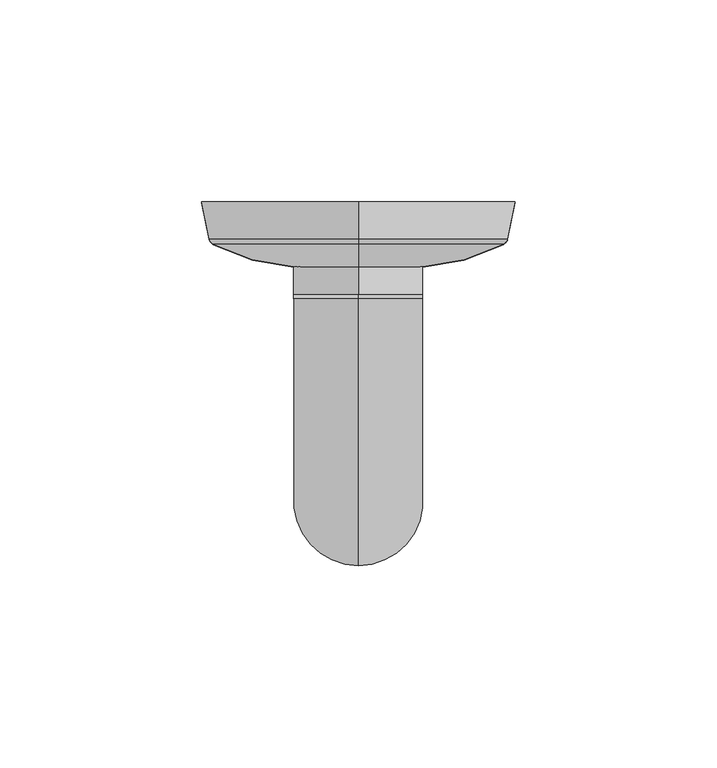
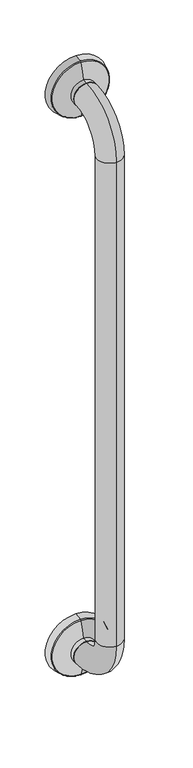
"""IFC4 building model written with IfcOpenShell, lengths in millimetres: proxy geometry, Grab Rail_Metlam_Straight_Vertical : 782long x 90d x 32w (ML332SS)."""

from ifc_helpers import new_model, si_unit, point, frame, origin, place, context, project, spatial, polyline, circle_curve, ellipse_curve, trimmed, source, transform, mapped, element, save
from ifc_brep_helpers import plane_surface, cylinder_surface, revolved_surface, advanced_brep


def specialty_equipment_1fe2ded2(model_context):
    return source(origin(), model_context, "Body", "AdvancedBrep", [
        advanced_brep(
        [(0.0, -90.0, 834.0), (0.0, -24.0, 768.0), (0.0, -24.0, 800.0), (0.0, -58.0, 834.0), (0.0, -58.0, 1484.0), (0.0, -90.0, 1484.0), (0.0, -24.0, 1518.0), (0.0, -24.0, 1550.0), (0.0, -23.0, 768.0), (0.0, -23.0, 800.0), (0.0, -23.0, 1518.0), (0.0, -23.0, 1550.0), (0.0, 0.0, 1534.0), (0.0, 0.0, 1495.0), (0.0, 0.0, 1573.0), (0.0, -9.0646354, 1496.8129271), (0.0, -9.0646354, 1571.1870729), (0.0, -10.4521085, 1570.1384075), (0.0, -10.4521085, 1497.8615925), (0.0, -16.0065539, 1518.0), (0.0, -16.0065539, 1550.0), (0.0, -9.0646354, 746.8129271), (0.0, -9.0646354, 821.1870729), (0.0, 0.0, 823.0), (0.0, 0.0, 745.0), (0.0, -16.0065539, 768.0), (0.0, -16.0065539, 800.0), (0.0, -10.4521085, 820.1384075), (0.0, -10.4521085, 747.8615925), (0.0, 0.0, 784.0)],
        [
            (0, 1, circle_curve(frame((0.0, -24.0, 834.0), z_axis=(1.0, 0.0, 0.0), x_axis=(0.0, 0.0, -1.0)), 66.0)),
            (1, 2, circle_curve(frame((0.0, -24.0, 784.0), z_axis=(0.0, -1.0, 0.0), x_axis=(0.0, 0.0, -1.0)), 16.0)),
            (2, 3, circle_curve(frame((0.0, -24.0, 834.0), z_axis=(-1.0, 0.0, 0.0), x_axis=(0.0, 0.0, -1.0)), 34.0)),
            (3, 0, circle_curve(frame((0.0, -74.0, 834.0), z_axis=(0.0, 0.0, -1.0), x_axis=(0.0, -1.0, 0.0)), 16.0)),
            (0, 3, circle_curve(frame((0.0, -74.0, 834.0), z_axis=(0.0, 0.0, -1.0), x_axis=(0.0, -1.0, 0.0)), 16.0)),
            (2, 1, circle_curve(frame((0.0, -24.0, 784.0), z_axis=(0.0, -1.0, 0.0), x_axis=(0.0, 0.0, -1.0)), 16.0)),
            (3, 4),
            (4, 5, circle_curve(frame((0.0, -74.0, 1484.0), z_axis=(0.0, 0.0, -1.0), x_axis=(0.0, -1.0, 0.0)), 16.0)),
            (5, 0),
            (5, 4, circle_curve(frame((0.0, -74.0, 1484.0), z_axis=(0.0, 0.0, -1.0), x_axis=(0.0, -1.0, 0.0)), 16.0)),
            (4, 6, circle_curve(frame((0.0, -24.0, 1484.0), z_axis=(-1.0, 0.0, 0.0), x_axis=(0.0, -1.0, 0.0)), 34.0)),
            (6, 7, circle_curve(frame((0.0, -24.0, 1534.0), z_axis=(0.0, -1.0, 0.0), x_axis=(0.0, 0.0, 1.0)), 16.0)),
            (7, 5, circle_curve(frame((0.0, -24.0, 1484.0), z_axis=(1.0, 0.0, 0.0), x_axis=(0.0, -1.0, 0.0)), 66.0)),
            (7, 6, circle_curve(frame((0.0, -24.0, 1534.0), z_axis=(0.0, -1.0, 0.0), x_axis=(0.0, 0.0, 1.0)), 16.0)),
            (1, 8),
            (8, 9, circle_curve(frame((0.0, -23.0, 784.0), z_axis=(0.0, -1.0, 0.0), x_axis=(0.0, 0.0, -1.0)), 16.0)),
            (9, 2),
            (9, 8, circle_curve(frame((0.0, -23.0, 784.0), z_axis=(0.0, -1.0, 0.0), x_axis=(0.0, 0.0, -1.0)), 16.0)),
            (6, 10),
            (10, 11, circle_curve(frame((0.0, -23.0, 1534.0), z_axis=(0.0, -1.0, 0.0), x_axis=(0.0, 0.0, 1.0)), 16.0)),
            (11, 7),
            (11, 10, circle_curve(frame((0.0, -23.0, 1534.0), z_axis=(0.0, -1.0, 0.0), x_axis=(0.0, 0.0, 1.0)), 16.0)),
            (12, 13),
            (13, 14, circle_curve(frame((0.0, 0.0, 1534.0), z_axis=(0.0, 1.0, 0.0), x_axis=(0.0, 0.0, -1.0)), 39.0)),
            (14, 12),
            (14, 13, circle_curve(frame((0.0, 0.0, 1534.0), z_axis=(0.0, 1.0, 0.0), x_axis=(0.0, 0.0, -1.0)), 39.0)),
            (13, 15),
            (15, 16, circle_curve(frame((0.0, -9.0646354, 1534.0), z_axis=(0.0, 1.0, 0.0), x_axis=(0.0, 0.0, -1.0)), 37.1870729)),
            (16, 14),
            (16, 15, circle_curve(frame((0.0, -9.0646354, 1534.0), z_axis=(0.0, 1.0, 0.0), x_axis=(0.0, 0.0, -1.0)), 37.1870729)),
            (17, 18, circle_curve(frame((0.0, -10.4521085, 1534.0), z_axis=(0.0, -1.0, 0.0), x_axis=(0.0, 0.0, -1.0)), 36.1384075)),
            (18, 19, circle_curve(frame((0.0, 35.2834961, 1521.3112908), z_axis=(-1.0, 0.0, 0.0), x_axis=(0.0, 1.0, 0.0)), 51.3968275)),
            (19, 20, circle_curve(frame((0.0, -16.0065539, 1534.0), z_axis=(0.0, 1.0, 0.0), x_axis=(0.0, 0.0, -1.0)), 16.0)),
            (20, 17, circle_curve(frame((0.0, 35.2834961, 1546.6887092), z_axis=(-1.0, 0.0, 0.0), x_axis=(0.0, 1.0, 0.0)), 51.3968275)),
            (18, 17, circle_curve(frame((0.0, -10.4521085, 1534.0), z_axis=(0.0, -1.0, 0.0), x_axis=(0.0, 0.0, -1.0)), 36.1384075)),
            (20, 19, circle_curve(frame((0.0, -16.0065539, 1534.0), z_axis=(0.0, 1.0, 0.0), x_axis=(0.0, 0.0, -1.0)), 16.0)),
            (19, 10),
            (11, 20),
            (15, 18, circle_curve(frame((0.0, -8.6724031, 1498.7740884), z_axis=(-1.0, 0.0, 0.0), x_axis=(0.0, 1.0, 0.0)), 2.0)),
            (17, 16, circle_curve(frame((0.0, -8.6724031, 1569.2259116), z_axis=(-1.0, 0.0, 0.0), x_axis=(0.0, 1.0, 0.0)), 2.0)),
            (21, 22, circle_curve(frame((0.0, -9.0646354, 784.0), z_axis=(0.0, 1.0, 0.0), x_axis=(0.0, 0.0, 1.0)), 37.1870729)),
            (22, 23),
            (23, 24, circle_curve(frame((0.0, 0.0, 784.0), z_axis=(0.0, -1.0, 0.0), x_axis=(0.0, 0.0, 1.0)), 39.0)),
            (24, 21),
            (22, 21, circle_curve(frame((0.0, -9.0646354, 784.0), z_axis=(0.0, 1.0, 0.0), x_axis=(0.0, 0.0, 1.0)), 37.1870729)),
            (24, 23, circle_curve(frame((0.0, 0.0, 784.0), z_axis=(0.0, -1.0, 0.0), x_axis=(0.0, 0.0, 1.0)), 39.0)),
            (25, 26, circle_curve(frame((0.0, -16.0065539, 784.0), z_axis=(0.0, 1.0, 0.0), x_axis=(0.0, 0.0, 1.0)), 16.0)),
            (26, 27, circle_curve(frame((0.0, 35.2834961, 796.6887092), z_axis=(-1.0, 0.0, 0.0), x_axis=(0.0, 1.0, 0.0)), 51.3968275)),
            (27, 28, circle_curve(frame((0.0, -10.4521085, 784.0), z_axis=(0.0, -1.0, 0.0), x_axis=(0.0, 0.0, 1.0)), 36.1384075)),
            (28, 25, circle_curve(frame((0.0, 35.2834961, 771.3112908), z_axis=(-1.0, 0.0, 0.0), x_axis=(0.0, 1.0, 0.0)), 51.3968275)),
            (26, 25, circle_curve(frame((0.0, -16.0065539, 784.0), z_axis=(0.0, 1.0, 0.0), x_axis=(0.0, 0.0, 1.0)), 16.0)),
            (28, 27, circle_curve(frame((0.0, -10.4521085, 784.0), z_axis=(0.0, -1.0, 0.0), x_axis=(0.0, 0.0, 1.0)), 36.1384075)),
            (25, 8),
            (9, 26),
            (23, 29),
            (29, 24),
            (21, 28, circle_curve(frame((0.0, -8.6724031, 748.7740884), z_axis=(-1.0, 0.0, 0.0), x_axis=(0.0, 1.0, 0.0)), 2.0)),
            (27, 22, circle_curve(frame((0.0, -8.6724031, 819.2259116), z_axis=(-1.0, 0.0, 0.0), x_axis=(0.0, 1.0, 0.0)), 2.0)),
        ],
        [
            revolved_surface(trimmed(ellipse_curve(frame((0.0, -24.0, 784.0), z_axis=(0.0, 1.0, 0.0), x_axis=(0.0, 0.0, -1.0)), 16.0, 16.0), [point((0.0, -24.0, 800.0))], [point((0.0, -24.0, 768.0))], True, "CARTESIAN"), (0.0, -24.0, 834.0), (-1.0, 0.0, 0.0)),
            revolved_surface(trimmed(ellipse_curve(frame((0.0, -24.0, 784.0), z_axis=(0.0, 1.0, 0.0), x_axis=(0.0, 0.0, -1.0)), 16.0, 16.0), [point((0.0, -24.0, 768.0))], [point((0.0, -24.0, 800.0))], True, "CARTESIAN"), (0.0, -24.0, 834.0), (-1.0, 0.0, 0.0)),
            cylinder_surface(frame((0.0, -74.0, 834.0), z_axis=(0.0, 0.0, -1.0), x_axis=(0.0, -1.0, 0.0)), 16.0),
            revolved_surface(trimmed(ellipse_curve(frame((0.0, -74.0, 1484.0), z_axis=(0.0, 0.0, -1.0), x_axis=(0.0, -1.0, 0.0)), 16.0, 16.0), [point((0.0, -58.0, 1484.0))], [point((0.0, -90.0, 1484.0))], True, "CARTESIAN"), (0.0, -24.0, 1484.0), (-1.0, 0.0, 0.0)),
            revolved_surface(trimmed(ellipse_curve(frame((0.0, -74.0, 1484.0), z_axis=(0.0, 0.0, -1.0), x_axis=(0.0, -1.0, 0.0)), 16.0, 16.0), [point((0.0, -90.0, 1484.0))], [point((0.0, -58.0, 1484.0))], True, "CARTESIAN"), (0.0, -24.0, 1484.0), (-1.0, 0.0, 0.0)),
            cylinder_surface(frame((0.0, -23.0, 784.0), z_axis=(0.0, 1.0, 0.0), x_axis=(0.0, 0.0, -1.0)), 16.0),
            cylinder_surface(frame((0.0, -24.0, 1534.0), z_axis=(0.0, -1.0, 0.0), x_axis=(0.0, 0.0, 1.0)), 16.0),
            plane_surface(frame((0.0, 0.0, 1534.0), z_axis=(0.0, 1.0, 0.0), x_axis=(0.0, 0.0, -1.0))),
            revolved_surface(polyline([(0.0, -9.0646354, 1496.8129271), (0.0, 0.0, 1495.0)]), (0.0, -10.0, 1534.0), (0.0, 1.0, 0.0)),
            revolved_surface(trimmed(ellipse_curve(frame((0.0, 35.2834961, 1521.3112908), z_axis=(1.0, 0.0, 0.0), x_axis=(0.0, 1.0, 0.0)), 51.3968275, 51.3968275), [point((0.0, -16.0065539, 1518.0))], [point((0.0, -10.4521085, 1497.8615925))], True, "CARTESIAN"), (0.0, -10.0, 1534.0), (0.0, 1.0, 0.0)),
            cylinder_surface(frame((0.0, -10.0, 1534.0), z_axis=(0.0, 1.0, 0.0), x_axis=(0.0, 0.0, -1.0)), 16.0),
            revolved_surface(trimmed(ellipse_curve(frame((0.0, -8.6724031, 1498.7740884), z_axis=(1.0, 0.0, 0.0), x_axis=(0.0, 1.0, 0.0)), 2.0, 2.0), [point((0.0, -10.4521085, 1497.8615925))], [point((0.0, -9.0646354, 1496.8129271))], True, "CARTESIAN"), (0.0, -10.0, 1534.0), (0.0, 1.0, 0.0)),
            revolved_surface(polyline([(0.0, 0.0, 823.0), (0.0, -9.0646354, 821.1870729)]), (0.0, -10.0, 784.0), (0.0, -1.0, 0.0)),
            revolved_surface(trimmed(ellipse_curve(frame((0.0, 35.2834961, 796.6887092), z_axis=(1.0, 0.0, 0.0), x_axis=(0.0, 1.0, 0.0)), 51.3968275, 51.3968275), [point((0.0, -10.4521085, 820.1384075))], [point((0.0, -16.0065539, 800.0))], True, "CARTESIAN"), (0.0, -10.0, 784.0), (0.0, -1.0, 0.0)),
            cylinder_surface(frame((0.0, -10.0, 784.0), z_axis=(0.0, -1.0, 0.0), x_axis=(0.0, 0.0, 1.0)), 16.0),
            plane_surface(frame((0.0, 0.0, 784.0), z_axis=(0.0, 1.0, 0.0), x_axis=(0.0, 0.0, 1.0))),
            revolved_surface(trimmed(ellipse_curve(frame((0.0, -8.6724031, 819.2259116), z_axis=(1.0, 0.0, 0.0), x_axis=(0.0, 1.0, 0.0)), 2.0, 2.0), [point((0.0, -9.0646354, 821.1870729))], [point((0.0, -10.4521085, 820.1384075))], True, "CARTESIAN"), (0.0, -10.0, 784.0), (0.0, -1.0, 0.0)),
        ],
        [
            (0, [[1, 2, 3, 4]]),
            (1, [[-1, 5, -3, 6]]),
            (2, [[-4, 7, 8, 9]]),
            (2, [[-5, -9, 10, -7]]),
            (3, [[-8, 11, 12, 13]]),
            (4, [[-10, -13, 14, -11]]),
            (5, [[-2, 15, 16, 17]]),
            (5, [[-6, -17, 18, -15]]),
            (6, [[-12, 19, 20, 21]]),
            (6, [[-14, -21, 22, -19]]),
            (7, [[23, 24, 25]]),
            (7, [[-23, -25, 26]]),
            (8, [[-24, 27, 28, 29]]),
            (8, [[-26, -29, 30, -27]]),
            (9, [[31, 32, 33, 34]]),
            (9, [[-32, 35, -34, 36]]),
            (10, [[-33, 37, -22, 38]]),
            (10, [[-36, -38, -20, -37]]),
            (11, [[-28, 39, -31, 40]]),
            (11, [[-30, -40, -35, -39]]),
            (12, [[41, 42, 43, 44]]),
            (12, [[-42, 45, -44, 46]]),
            (13, [[47, 48, 49, 50]]),
            (13, [[-48, 51, -50, 52]]),
            (14, [[-47, 53, -18, 54]]),
            (14, [[-51, -54, -16, -53]]),
            (15, [[-43, 55, 56]]),
            (15, [[-46, -56, -55]]),
            (16, [[-41, 57, -49, 58]]),
            (16, [[-45, -58, -52, -57]]),
        ],
    ),
    ])


if __name__ == "__main__":
    model = new_model("IFC4")
    model_context = context("Model", 3, world=origin())
    ifc_project = project(units=[si_unit("LENGTHUNIT", "METRE", prefix="MILLI")], contexts=[model_context])
    site = spatial("IfcSite", under=ifc_project)
    building = spatial("IfcBuilding", under=site)
    placement = place(None, origin())
    specialty_equipment_shape = specialty_equipment_1fe2ded2(model_context)
    element("IfcBuildingElementProxy", 1, Name="Grab Rail_Metlam_Straight_Vertical : 782long x 90d x 32w (ML332SS)", ObjectType="Grab Rail_Metlam_Straight_Vertical : 782long x 90d x 32w (ML332SS)", at=placement, inside=building, context=model_context, shape_type="MappedRepresentation", body=[
        mapped(specialty_equipment_shape, transform((0.0, 0.0, 0.0), x_axis=(1.0, 0.0, 0.0), y_axis=(0.0, 1.0, 0.0), z_axis=(0.0, 0.0, 1.0))),
    ])
    save(model, "model.ifc")
